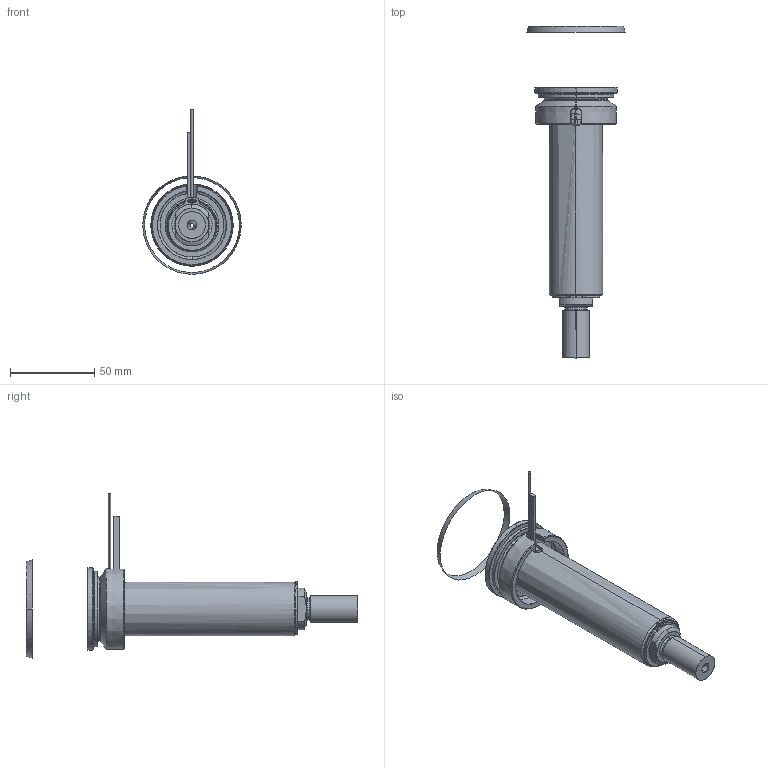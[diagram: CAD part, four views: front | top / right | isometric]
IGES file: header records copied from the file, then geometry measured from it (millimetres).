
Start section: SolidWorks IGES file using analytic representation for surfaces
Global section: file name: C:\Documents and Settings\ws-20\Desktop\TEMPORANEA\UGBE5003-S-A-P-3 [Ød-2.5 P-25 ØC-13].IGS; native system: SolidWorks 2012; preprocessor: SolidWorks 2012; author: ws-20; date: 120306.162256; units: millimetre
Bounding box: 58.57 x 197.44 x 97.91 mm (x, y, z)
Surface area: 53064.4 mm2 (no closed solid volume)
Topology: 0 solids, 0 shells, 109 faces, 2098 edges, 2098 vertices
Faces by surface type: revolution 67, bspline 42
